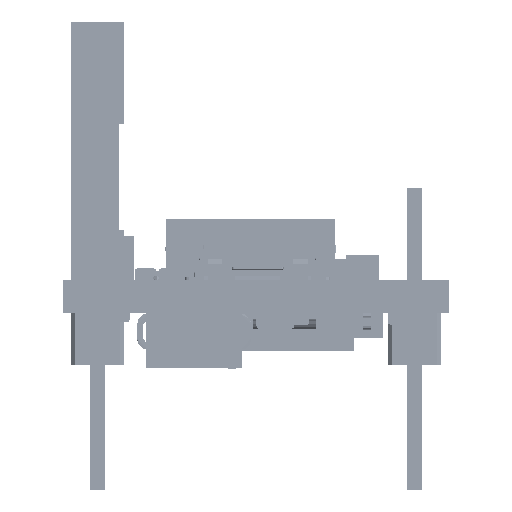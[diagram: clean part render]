
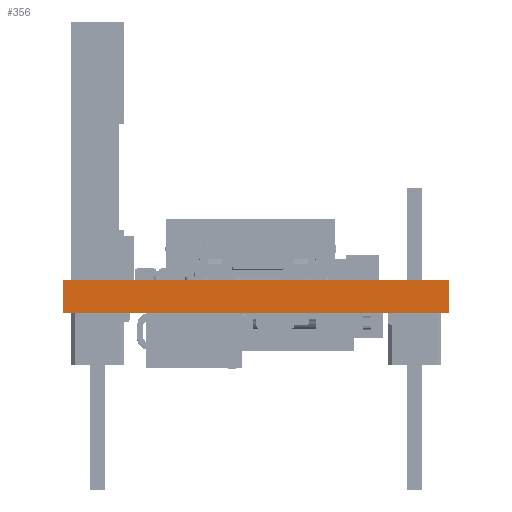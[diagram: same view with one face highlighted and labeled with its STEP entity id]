
A CAD part, front view. The second image highlights one B-rep face of the part: STEP entity #356.
In plain terms, the highlighted planar face has unit normal (0, -1, 0).
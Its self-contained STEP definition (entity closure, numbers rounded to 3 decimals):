
#356 = ADVANCED_FACE('',(#357),#391,.F.);
#357 = FACE_BOUND('',#358,.F.);
#358 = EDGE_LOOP('',(#359,#369,#377,#385));
#359 = ORIENTED_EDGE('',*,*,#360,.T.);
#360 = EDGE_CURVE('',#361,#363,#365,.T.);
#361 = VERTEX_POINT('',#362);
#362 = CARTESIAN_POINT('',(0.,0.,-1.607));
#363 = VERTEX_POINT('',#364);
#364 = CARTESIAN_POINT('',(0.,0.,0.));
#365 = LINE('',#366,#367);
#366 = CARTESIAN_POINT('',(0.,0.,-1.607));
#367 = VECTOR('',#368,1.);
#368 = DIRECTION('',(0.,0.,1.));
#369 = ORIENTED_EDGE('',*,*,#370,.T.);
#370 = EDGE_CURVE('',#363,#371,#373,.T.);
#371 = VERTEX_POINT('',#372);
#372 = CARTESIAN_POINT('',(18.542,0.,0.));
#373 = LINE('',#374,#375);
#374 = CARTESIAN_POINT('',(0.,0.,0.));
#375 = VECTOR('',#376,1.);
#376 = DIRECTION('',(1.,0.,0.));
#377 = ORIENTED_EDGE('',*,*,#378,.F.);
#378 = EDGE_CURVE('',#379,#371,#381,.T.);
#379 = VERTEX_POINT('',#380);
#380 = CARTESIAN_POINT('',(18.542,0.,-1.607));
#381 = LINE('',#382,#383);
#382 = CARTESIAN_POINT('',(18.542,0.,-1.607));
#383 = VECTOR('',#384,1.);
#384 = DIRECTION('',(0.,0.,1.));
#385 = ORIENTED_EDGE('',*,*,#386,.F.);
#386 = EDGE_CURVE('',#361,#379,#387,.T.);
#387 = LINE('',#388,#389);
#388 = CARTESIAN_POINT('',(0.,0.,-1.607));
#389 = VECTOR('',#390,1.);
#390 = DIRECTION('',(1.,0.,0.));
#391 = PLANE('',#392);
#392 = AXIS2_PLACEMENT_3D('',#393,#394,#395);
#393 = CARTESIAN_POINT('',(0.,0.,-1.607));
#394 = DIRECTION('',(0.,1.,0.));
#395 = DIRECTION('',(1.,0.,0.));
